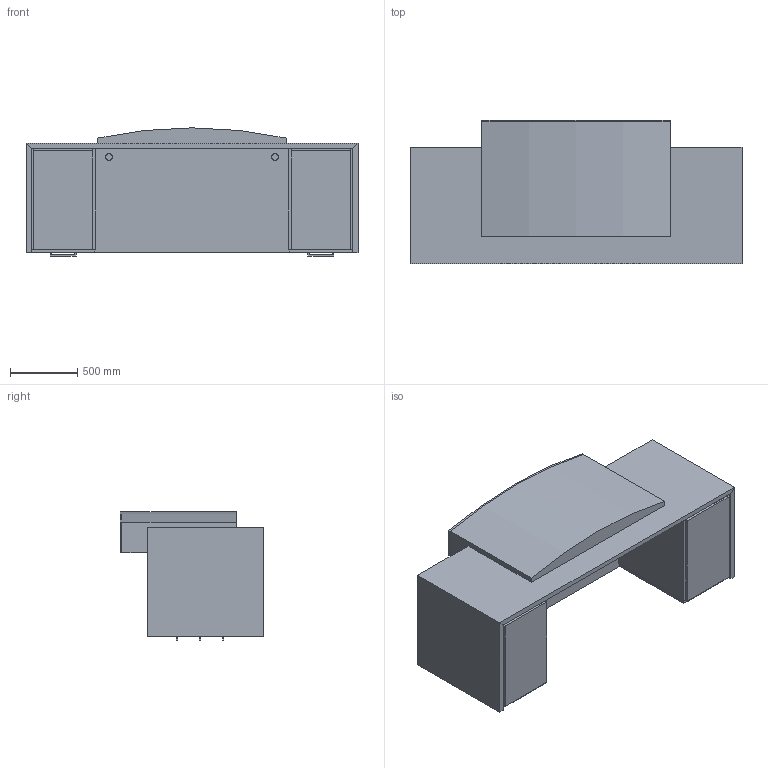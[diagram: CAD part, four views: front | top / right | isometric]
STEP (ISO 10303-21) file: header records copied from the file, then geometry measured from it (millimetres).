
FILE_DESCRIPTION(/* description */ ('','CAx-IF Rec.Pracs.---Representation and Presentation of Product Manufacturing Information (PMI)---4.0---2014-10-13'),/* implementation_level */ '2;1');
FILE_NAME(/* name */ 'RECEPTION_SALUTE 2.stp',/* time_stamp */ '2024-12-07T19:01:49-05:00',/* author */ ('mbowman'),/* organization */ (''),/* preprocessor_version */ 'ST-DEVELOPER v19.2',/* originating_system */ 'Autodesk Inventor 2023',/* authorisation */ '');
FILE_SCHEMA (('AP242_MANAGED_MODEL_BASED_3D_ENGINEERING_MIM_LF { 1 0 10303 442 1 1 4 }'));
Length unit declared in the file: inch
Products named in the file (4): SALUTE^ADMIN 2_BOW FRONT TRANS-SOLID ASSEMBLY; SALUTE^ADMIN_32x97 BASE-PARTS SOLID; SALUTE^ADMIN_34x55 BOWFRONT TRANS-PARTS SOLID; HAFELE 102.12.004-7_5 INCH
Assembly tree (6 placements, depth 2):
  SALUTE^ADMIN 2_BOW FRONT TRANS-SOLID ASSEMBLY
    SALUTE^ADMIN_32x97 BASE-PARTS SOLID
    SALUTE^ADMIN_34x55 BOWFRONT TRANS-PARTS SOLID
    HAFELE 102.12.004-7_5 INCH  x4
Bounding box: 2463.8 x 1066.8 x 951.89 mm (x, y, z)
Volume: 361097437.6 mm3; surface area: 26363365 mm2
Topology: 26 solids, 26 shells, 192 faces, 416 edges, 276 vertices
Faces by surface type: plane 185, cylinder 5, cone 2
Full cylindrical faces by diameter (mm): 48.26 x2
Entity records: 5498 total; most frequent: CARTESIAN_POINT 1177, DIRECTION 728, ORIENTED_EDGE 688, EDGE_CURVE 344, LINE 328, VECTOR 328, STYLED_ITEM 279, VERTEX_POINT 228
